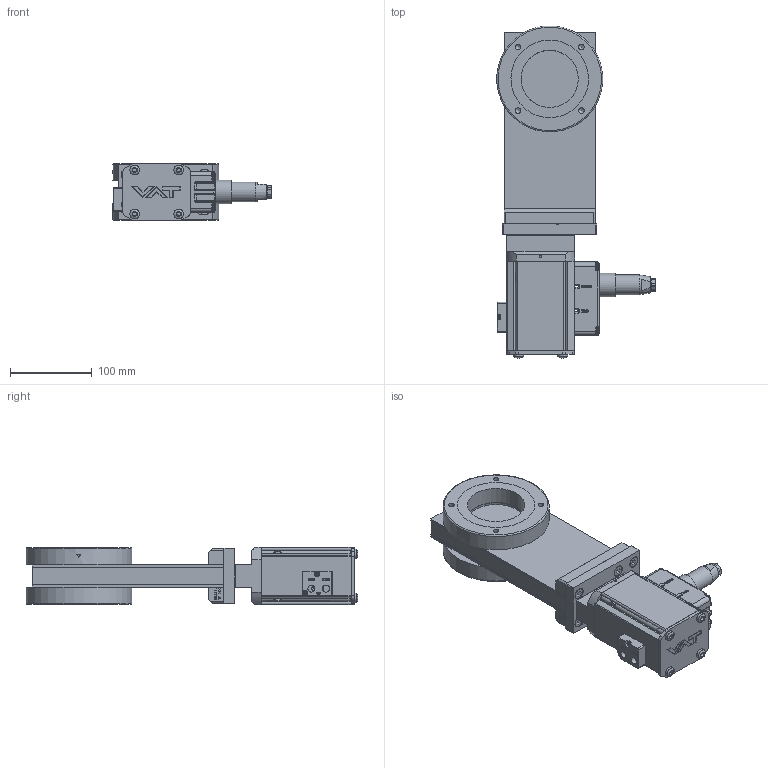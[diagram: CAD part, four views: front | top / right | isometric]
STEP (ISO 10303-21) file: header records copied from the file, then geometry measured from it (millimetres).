
FILE_DESCRIPTION(/* description */ (''),/* implementation_level */ '2;1');
FILE_NAME(/* name */ '1301323946_203.stp',/* time_stamp */ '2021-11-11T11:18:41+01:00',/* author */ (''),/* organization */ (''),/* preprocessor_version */ 'ST-DEVELOPER v16.7',/* originating_system */ 'SIEMENS PLM Software NX 1915',/* authorisation */ '');
FILE_SCHEMA (('AP203_CONFIGURATION_CONTROLLED_3D_DESIGN_OF_MECHANICAL_PARTS_AND_ASSEMBLIES_MIM_LF { 1 0 10303 403 2 1 2}'));
Products named in the file (33): 441451_29559ID; 21436-01.1_29617ID; 21437-01.1_29563ID; 21438-01.1; 441451_29728ID; 21437-01.1_29610ID; 21436-01.1_29690ID; 70973-01.1; 70988-01.1; n-8504-002; n-6024-548.1; 70987-01.1; n-6024-526; N-7100-014_2.1; 94828-01.1; N-7100-012_3.1; N-6024-571.1; 85948-01.1; 94221-01.1; 73002-01.1; 23553-01.1_29674ID; 23553-01.1; n-6099-454.1; 501138; 348352.1; 919608; 218198.1; 790526; 94827-r1.1; 94234-r1.2; 22974-r1.2_MODEL; 23552-r1.2_MODEL; 1083717
Assembly tree (49 placements, depth 4):
  1083717
    23552-r1.2_MODEL
      n-6099-454.1  x2
      23553-01.1
      23553-01.1_29674ID
      22974-r1.2_MODEL
        21436-01.1_29690ID
        21437-01.1_29610ID
        441451_29728ID
        21438-01.1
        21437-01.1_29563ID
        21436-01.1_29617ID
        441451_29559ID
    218198.1  x6
    94234-r1.2
      73002-01.1  x4
      94221-01.1
      85948-01.1
      N-6024-571.1  x4
    94827-r1.1
      N-7100-012_3.1
      94828-01.1
      N-7100-014_2.1
      n-6024-526  x2
    790526
      70987-01.1
      n-6024-548.1  x4
      n-8504-002
      70988-01.1  x2
      70973-01.1
    919608
    348352.1
    501138
Bounding box: 194.43 x 406.77 x 70 mm (x, y, z)
Volume: 1310483.9 mm3; surface area: 438316 mm2
Topology: 117 solids, 117 shells, 2518 faces, 6585 edges, 4561 vertices
Faces by surface type: plane 1768, cylinder 479, torus 101, cone 81, extrusion 61, bspline 18, sphere 10
Full cylindrical faces by diameter (mm): 0.7 x1, 1.66 x7, 2 x30, 2.125 x1, 2.5 x16, 2.65 x1, 2.8 x2, 3 x5, 3.3 x6, 4 x10, 4.2 x3, 4.35 x4, 4.4 x4, 4.45 x4, 4.5 x2, 4.625 x4, 4.75 x8, 5 x7, 5.2 x4, 5.9 x1, 6 x15, 6.6 x4, 6.66 x6, 6.7 x6, 6.8 x20, 7 x8, 7.05 x1, 7.5 x4, 7.982 x4, 8 x16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
Entity records: 77460 total; most frequent: CARTESIAN_POINT 21153, ORIENTED_EDGE 10676, DIRECTION 9817, EDGE_CURVE 5338, VERTEX_POINT 3923, VECTOR 3427, LINE 3366, AXIS2_PLACEMENT_3D 3195
